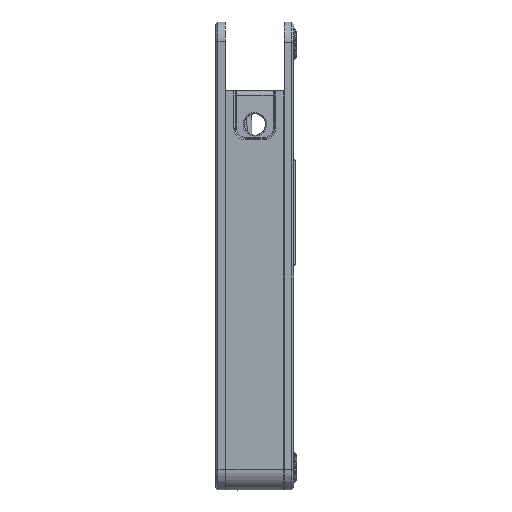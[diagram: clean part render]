
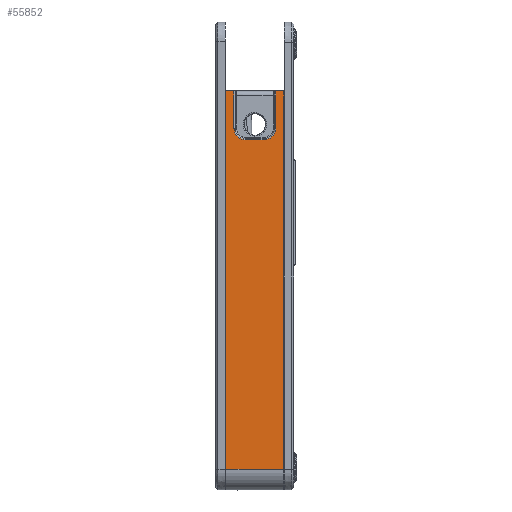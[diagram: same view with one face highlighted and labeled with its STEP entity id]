
A CAD part, left-side view. The second image highlights one B-rep face of the part: STEP entity #55852.
In plain terms, the highlighted planar face has unit normal (-1, 0, 0).
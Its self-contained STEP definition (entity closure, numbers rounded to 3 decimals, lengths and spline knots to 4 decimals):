
#16708=DIRECTION('',(0.,1.,0.));
#16709=VECTOR('',#16708,0.1296);
#16710=CARTESIAN_POINT('',(-3.4924,-1.112,
-1.126));
#16711=LINE('',#16710,#16709);
#16720=CARTESIAN_POINT('',(-3.4924,-0.9824,
-1.126));
#16734=DIRECTION('',(0.,0.,1.));
#16735=VECTOR('',#16734,0.6047);
#16736=CARTESIAN_POINT('',(-3.4924,-0.3006,
-1.7307));
#16737=LINE('',#16736,#16735);
#16738=CARTESIAN_POINT('',(-3.4924,-0.4907,
-1.9207));
#16739=CARTESIAN_POINT('',(-3.4924,-0.4872,
-1.9207));
#16740=CARTESIAN_POINT('',(-3.4924,-0.4804,
-1.9205));
#16741=CARTESIAN_POINT('',(-3.4924,-0.4701,
-1.9197));
#16742=CARTESIAN_POINT('',(-3.4924,-0.4599,
-1.9183));
#16743=CARTESIAN_POINT('',(-3.4924,-0.4498,
-1.9163));
#16744=CARTESIAN_POINT('',(-3.4924,-0.4398,
-1.9138));
#16745=CARTESIAN_POINT('',(-3.4924,-0.43,
-1.9108));
#16746=CARTESIAN_POINT('',(-3.4924,-0.4203,
-1.9073));
#16747=CARTESIAN_POINT('',(-3.4924,-0.4109,
-1.9032));
#16748=CARTESIAN_POINT('',(-3.4924,-0.4017,
-1.8986));
#16749=CARTESIAN_POINT('',(-3.4924,-0.3927,
-1.8936));
#16750=CARTESIAN_POINT('',(-3.4924,-0.384,
-1.888));
#16751=CARTESIAN_POINT('',(-3.4924,-0.3756,
-1.882));
#16752=CARTESIAN_POINT('',(-3.4924,-0.3676,
-1.8756));
#16753=CARTESIAN_POINT('',(-3.4924,-0.3599,
-1.8687));
#16754=CARTESIAN_POINT('',(-3.4924,-0.3527,
-1.8614));
#16755=CARTESIAN_POINT('',(-3.4924,-0.3458,
-1.8538));
#16756=CARTESIAN_POINT('',(-3.4924,-0.3393,
-1.8458));
#16757=CARTESIAN_POINT('',(-3.4924,-0.3333,
-1.8374));
#16758=CARTESIAN_POINT('',(-3.4924,-0.3278,
-1.8287));
#16759=CARTESIAN_POINT('',(-3.4924,-0.3227,
-1.8198));
#16760=CARTESIAN_POINT('',(-3.4924,-0.3181,
-1.8105));
#16761=CARTESIAN_POINT('',(-3.4924,-0.3141,
-1.8011));
#16762=CARTESIAN_POINT('',(-3.4924,-0.3105,
-1.7914));
#16763=CARTESIAN_POINT('',(-3.4924,-0.3075,
-1.7816));
#16764=CARTESIAN_POINT('',(-3.4924,-0.305,
-1.7716));
#16765=CARTESIAN_POINT('',(-3.4924,-0.303,
-1.7615));
#16766=CARTESIAN_POINT('',(-3.4924,-0.3016,
-1.7513));
#16767=CARTESIAN_POINT('',(-3.4924,-0.3008,
-1.741));
#16768=CARTESIAN_POINT('',(-3.4924,-0.3006,
-1.7342));
#16769=CARTESIAN_POINT('',(-3.4924,-0.3006,
-1.7307));
#16771=DIRECTION('',(0.,1.,0.));
#16772=VECTOR('',#16771,0.3014);
#16773=CARTESIAN_POINT('',(-3.4924,-0.7921,
-1.9207));
#16774=LINE('',#16773,#16772);
#16775=CARTESIAN_POINT('',(-3.4924,-0.9821,
-1.7307));
#16776=CARTESIAN_POINT('',(-3.4924,-0.9821,
-1.7342));
#16777=CARTESIAN_POINT('',(-3.4924,-0.9819,
-1.741));
#16778=CARTESIAN_POINT('',(-3.4924,-0.9811,
-1.7512));
#16779=CARTESIAN_POINT('',(-3.4924,-0.9797,
-1.7614));
#16780=CARTESIAN_POINT('',(-3.4924,-0.9778,
-1.7716));
#16781=CARTESIAN_POINT('',(-3.4924,-0.9753,
-1.7815));
#16782=CARTESIAN_POINT('',(-3.4924,-0.9723,
-1.7914));
#16783=CARTESIAN_POINT('',(-3.4924,-0.9687,
-1.801));
#16784=CARTESIAN_POINT('',(-3.4924,-0.9646,
-1.8105));
#16785=CARTESIAN_POINT('',(-3.4924,-0.9601,
-1.8197));
#16786=CARTESIAN_POINT('',(-3.4924,-0.955,
-1.8287));
#16787=CARTESIAN_POINT('',(-3.4924,-0.9494,
-1.8374));
#16788=CARTESIAN_POINT('',(-3.4924,-0.9434,
-1.8457));
#16789=CARTESIAN_POINT('',(-3.4924,-0.937,
-1.8537));
#16790=CARTESIAN_POINT('',(-3.4924,-0.9301,
-1.8614));
#16791=CARTESIAN_POINT('',(-3.4924,-0.9228,
-1.8687));
#16792=CARTESIAN_POINT('',(-3.4924,-0.9152,
-1.8755));
#16793=CARTESIAN_POINT('',(-3.4924,-0.9072,
-1.882));
#16794=CARTESIAN_POINT('',(-3.4924,-0.8988,
-1.888));
#16795=CARTESIAN_POINT('',(-3.4924,-0.8901,
-1.8935));
#16796=CARTESIAN_POINT('',(-3.4924,-0.8811,
-1.8986));
#16797=CARTESIAN_POINT('',(-3.4924,-0.8719,
-1.9032));
#16798=CARTESIAN_POINT('',(-3.4924,-0.8625,
-1.9073));
#16799=CARTESIAN_POINT('',(-3.4924,-0.8528,
-1.9108));
#16800=CARTESIAN_POINT('',(-3.4924,-0.843,
-1.9138));
#16801=CARTESIAN_POINT('',(-3.4924,-0.833,
-1.9163));
#16802=CARTESIAN_POINT('',(-3.4924,-0.8229,
-1.9183));
#16803=CARTESIAN_POINT('',(-3.4924,-0.8127,
-1.9196));
#16804=CARTESIAN_POINT('',(-3.4924,-0.8024,
-1.9205));
#16805=CARTESIAN_POINT('',(-3.4924,-0.7955,
-1.9207));
#16806=CARTESIAN_POINT('',(-3.4924,-0.7921,
-1.9207));
#16808=DIRECTION('',(0.,0.,-1.));
#16809=VECTOR('',#16808,0.6047);
#16810=CARTESIAN_POINT('',(-3.4924,-0.9824,
-1.126));
#16811=LINE('',#16810,#16809);
#16812=DIRECTION('',(0.,0.,1.));
#16813=VECTOR('',#16812,6.1756);
#16814=CARTESIAN_POINT('',(-3.4924,-1.112,
-7.3016));
#16815=LINE('',#16814,#16813);
#16816=DIRECTION('',(0.,-1.,0.));
#16817=VECTOR('',#16816,0.9446);
#16818=CARTESIAN_POINT('',(-3.4924,-0.1675,
-7.3016));
#16819=LINE('',#16818,#16817);
#16820=DIRECTION('',(0.,0.,1.));
#16821=VECTOR('',#16820,6.1756);
#16822=CARTESIAN_POINT('',(-3.4924,-0.1675,
-7.3016));
#16823=LINE('',#16822,#16821);
#16848=CARTESIAN_POINT('',(-3.4924,-0.3003,
-1.126));
#16858=DIRECTION('',(0.,1.,0.));
#16859=VECTOR('',#16858,0.1329);
#16860=CARTESIAN_POINT('',(-3.4924,-0.3003,
-1.126));
#16861=LINE('',#16860,#16859);
#32110=CARTESIAN_POINT('',(-3.4924,-0.1675,
-7.3016));
#32111=CARTESIAN_POINT('',(-3.4924,-1.112,
-7.3016));
#32112=VERTEX_POINT('',#32110);
#32113=VERTEX_POINT('',#32111);
#32350=VERTEX_POINT('',#16848);
#32354=CARTESIAN_POINT('',(-3.4924,-0.3006,
-1.7307));
#32355=VERTEX_POINT('',#32354);
#32356=VERTEX_POINT('',#16738);
#32358=CARTESIAN_POINT('',(-3.4924,-0.7921,
-1.9207));
#32359=VERTEX_POINT('',#32358);
#32362=VERTEX_POINT('',#16775);
#32365=VERTEX_POINT('',#16720);
#32394=CARTESIAN_POINT('',(-3.4924,-0.1675,
-1.126));
#32396=VERTEX_POINT('',#32394);
#32402=CARTESIAN_POINT('',(-3.4924,-1.112,
-1.126));
#32404=VERTEX_POINT('',#32402);
#55829=CARTESIAN_POINT('',(-3.4924,-0.1575,
-7.6362));
#55830=DIRECTION('',(-1.,0.,0.));
#55831=DIRECTION('',(0.,0.,1.));
#55832=AXIS2_PLACEMENT_3D('',#55829,#55830,#55831);
#55833=PLANE('',#55832);
#55835=ORIENTED_EDGE('',*,*,#55834,.F.);
#55837=ORIENTED_EDGE('',*,*,#55836,.F.);
#55839=ORIENTED_EDGE('',*,*,#55838,.F.);
#55841=ORIENTED_EDGE('',*,*,#55840,.F.);
#55843=ORIENTED_EDGE('',*,*,#55842,.F.);
#55844=ORIENTED_EDGE('',*,*,#55817,.F.);
#55845=ORIENTED_EDGE('',*,*,#41064,.F.);
#55846=ORIENTED_EDGE('',*,*,#41107,.F.);
#55847=ORIENTED_EDGE('',*,*,#41154,.T.);
#55849=ORIENTED_EDGE('',*,*,#55848,.F.);
#55850=EDGE_LOOP('',(#55835,#55837,#55839,#55841,#55843,#55844,#55845,#55846,
#55847,#55849));
#55851=FACE_OUTER_BOUND('',#55850,.F.);
#55852=ADVANCED_FACE('',(#55851),#55833,.T.);
#16770=B_SPLINE_CURVE_WITH_KNOTS('',3,(#16738,#16739,#16740,#16741,#16742,
#16743,#16744,#16745,#16746,#16747,#16748,#16749,#16750,#16751,#16752,#16753,
#16754,#16755,#16756,#16757,#16758,#16759,#16760,#16761,#16762,#16763,#16764,
#16765,#16766,#16767,#16768,#16769),.UNSPECIFIED.,.F.,.F.,(4,1,1,1,1,1,1,1,1,1,
1,1,1,1,1,1,1,1,1,1,1,1,1,1,1,1,1,1,1,4),(0.,0.0345,
0.069,0.1034,0.1379,0.1724,
0.2069,0.2414,0.2759,0.3103,
0.3448,0.3793,0.4138,0.4483,
0.4828,0.5172,0.5517,0.5862,
0.6207,0.6552,0.6897,0.7241,
0.7586,0.7931,0.8276,0.8621,
0.8966,0.931,0.9655,1.),.UNSPECIFIED.);
#16807=B_SPLINE_CURVE_WITH_KNOTS('',3,(#16775,#16776,#16777,#16778,#16779,
#16780,#16781,#16782,#16783,#16784,#16785,#16786,#16787,#16788,#16789,#16790,
#16791,#16792,#16793,#16794,#16795,#16796,#16797,#16798,#16799,#16800,#16801,
#16802,#16803,#16804,#16805,#16806),.UNSPECIFIED.,.F.,.F.,(4,1,1,1,1,1,1,1,1,1,
1,1,1,1,1,1,1,1,1,1,1,1,1,1,1,1,1,1,1,4),(0.,0.0345,
0.069,0.1034,0.1379,0.1724,
0.2069,0.2414,0.2759,0.3103,
0.3448,0.3793,0.4138,0.4483,
0.4828,0.5172,0.5517,0.5862,
0.6207,0.6552,0.6897,0.7241,
0.7586,0.7931,0.8276,0.8621,
0.8966,0.931,0.9655,1.),.UNSPECIFIED.);
#41064=EDGE_CURVE('',#32113,#32404,#16815,.T.);
#41107=EDGE_CURVE('',#32112,#32113,#16819,.T.);
#41154=EDGE_CURVE('',#32112,#32396,#16823,.T.);
#55817=EDGE_CURVE('',#32404,#32365,#16711,.T.);
#55834=EDGE_CURVE('',#32355,#32350,#16737,.T.);
#55836=EDGE_CURVE('',#32356,#32355,#16770,.T.);
#55838=EDGE_CURVE('',#32359,#32356,#16774,.T.);
#55840=EDGE_CURVE('',#32362,#32359,#16807,.T.);
#55842=EDGE_CURVE('',#32365,#32362,#16811,.T.);
#55848=EDGE_CURVE('',#32350,#32396,#16861,.T.);
